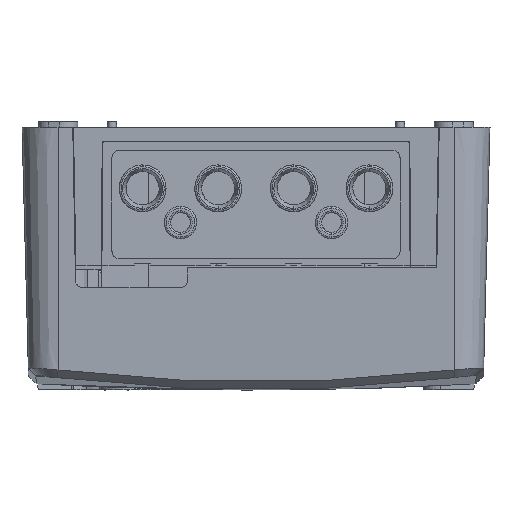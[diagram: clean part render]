
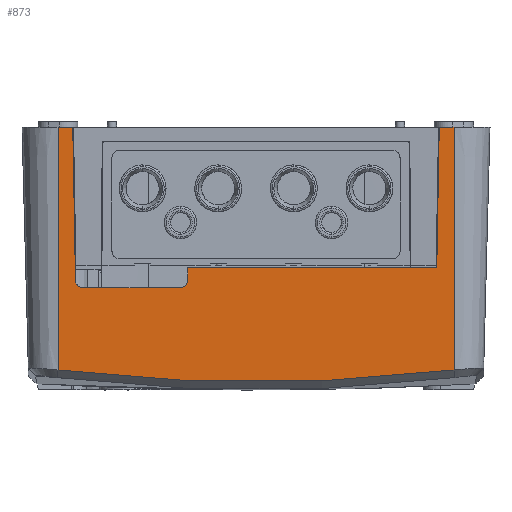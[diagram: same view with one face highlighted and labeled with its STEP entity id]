
A CAD part, front view. The second image highlights one B-rep face of the part: STEP entity #873.
In plain terms, the highlighted planar face has unit normal (0, -1, -0.026).
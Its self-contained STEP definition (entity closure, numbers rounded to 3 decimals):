
#873=ADVANCED_FACE('',(#11761),#11763,.F.);
#11761=FACE_OUTER_BOUND('',#11762,.T.);
#11762=EDGE_LOOP('',(#24695,#24696,#24697,#24698,#24699,#24700,#24701,#24702,#24703,
#24704,#24705,#24706));
#11763=PLANE('',#11764);
#11764=AXIS2_PLACEMENT_3D('',#11765,#11766,#11767);
#11765=CARTESIAN_POINT('',(43.592,-187.936,-9.508));
#11766=DIRECTION('',(0.,1.,0.026));
#11767=DIRECTION('',(0.,-0.026,1.));
#24695=ORIENTED_EDGE('',*,*,#29319,.F.);
#24696=ORIENTED_EDGE('',*,*,#29337,.F.);
#24697=ORIENTED_EDGE('',*,*,#29296,.T.);
#24698=ORIENTED_EDGE('',*,*,#29339,.F.);
#24699=ORIENTED_EDGE('',*,*,#29300,.F.);
#24700=ORIENTED_EDGE('',*,*,#29335,.F.);
#24701=ORIENTED_EDGE('',*,*,#29334,.F.);
#24702=ORIENTED_EDGE('',*,*,#29331,.F.);
#24703=ORIENTED_EDGE('',*,*,#29329,.F.);
#24704=ORIENTED_EDGE('',*,*,#29328,.F.);
#24705=ORIENTED_EDGE('',*,*,#29325,.F.);
#24706=ORIENTED_EDGE('',*,*,#29323,.F.);
#29296=EDGE_CURVE('',#33695,#33714,#33717,.T.);
#29300=EDGE_CURVE('',#33720,#33722,#33723,.T.);
#29319=EDGE_CURVE('',#33750,#33753,#33754,.T.);
#29323=EDGE_CURVE('',#33753,#33758,#33759,.T.);
#29325=EDGE_CURVE('',#33758,#33761,#33762,.T.);
#29328=EDGE_CURVE('',#33761,#33764,#33766,.T.);
#29329=EDGE_CURVE('',#33764,#33767,#33768,.T.);
#29331=EDGE_CURVE('',#33767,#33770,#33771,.T.);
#29334=EDGE_CURVE('',#33770,#33773,#33775,.T.);
#29335=EDGE_CURVE('',#33773,#33720,#33776,.T.);
#29337=EDGE_CURVE('',#33695,#33750,#33778,.T.);
#29339=EDGE_CURVE('',#33722,#33714,#33780,.T.);
#33695=VERTEX_POINT('',#57150);
#33714=VERTEX_POINT('',#57299);
#33717=B_SPLINE_CURVE_WITH_KNOTS('',3,
(#57351,#57352,#57353,#57354,#57355,#57356,#57357,#57358,#57359,#57360,#57361,#57362,
#57363,#57364,#57365,#57366,#57367,#57368,#57369),
.UNSPECIFIED.,.F.,.F.,
(4,1,1,1,1,1,1,1,1,1,1,1,1,1,1,1,4),
(0.,0.062,0.124,0.187,0.249,0.312,
0.375,0.437,0.5,0.563,0.625,
0.688,0.751,0.813,0.876,0.938,
1.),
.UNSPECIFIED.);
#33720=VERTEX_POINT('',#57388);
#33722=VERTEX_POINT('',#57392);
#33723=LINE('',#57393,#57394);
#33750=VERTEX_POINT('',#57842);
#33753=VERTEX_POINT('',#57848);
#33754=LINE('',#57849,#57850);
#33758=VERTEX_POINT('',#57863);
#33759=LINE('',#57864,#57865);
#33761=VERTEX_POINT('',#57870);
#33762=(BOUNDED_CURVE()B_SPLINE_CURVE(3,
(#57871,#57872,#57873,#57874),
.UNSPECIFIED.,.F.,.F.)B_SPLINE_CURVE_WITH_KNOTS((4,4),
(0.,1.),
.UNSPECIFIED.)CURVE()GEOMETRIC_REPRESENTATION_ITEM()RATIONAL_B_SPLINE_CURVE((1.,
0.809,0.809,1.))REPRESENTATION_ITEM(''));
#33764=VERTEX_POINT('',#57878);
#33766=LINE('',#57882,#57883);
#33767=VERTEX_POINT('',#57885);
#33768=(BOUNDED_CURVE()B_SPLINE_CURVE(3,
(#57886,#57887,#57888,#57889),
.UNSPECIFIED.,.F.,.F.)B_SPLINE_CURVE_WITH_KNOTS((4,4),
(0.,1.),
.UNSPECIFIED.)CURVE()GEOMETRIC_REPRESENTATION_ITEM()RATIONAL_B_SPLINE_CURVE((1.,
0.805,0.805,1.))REPRESENTATION_ITEM(''));
#33770=VERTEX_POINT('',#57893);
#33771=LINE('',#57894,#57895);
#33773=VERTEX_POINT('',#57900);
#33775=LINE('',#57904,#57905);
#33776=LINE('',#57907,#57908);
#33778=LINE('',#57913,#57914);
#33780=LINE('',#57919,#57920);
#57150=CARTESIAN_POINT('',(-66.408,-186.169,-76.961));
#57299=CARTESIAN_POINT('',(43.592,-186.169,-76.961));
#57351=CARTESIAN_POINT('',(-66.408,-186.169,-76.961));
#57352=CARTESIAN_POINT('',(-64.133,-186.162,-77.243));
#57353=CARTESIAN_POINT('',(-59.575,-186.148,-77.774));
#57354=CARTESIAN_POINT('',(-52.73,-186.13,-78.463));
#57355=CARTESIAN_POINT('',(-45.867,-186.115,-79.047));
#57356=CARTESIAN_POINT('',(-38.99,-186.102,-79.525));
#57357=CARTESIAN_POINT('',(-32.102,-186.092,-79.898));
#57358=CARTESIAN_POINT('',(-25.208,-186.085,-80.164));
#57359=CARTESIAN_POINT('',(-18.31,-186.081,-80.323));
#57360=CARTESIAN_POINT('',(-11.41,-186.08,-80.377));
#57361=CARTESIAN_POINT('',(-4.51,-186.081,-80.324));
#57362=CARTESIAN_POINT('',(2.389,-186.085,-80.164));
#57363=CARTESIAN_POINT('',(9.283,-186.092,-79.898));
#57364=CARTESIAN_POINT('',(16.172,-186.102,-79.526));
#57365=CARTESIAN_POINT('',(23.049,-186.115,-79.047));
#57366=CARTESIAN_POINT('',(29.913,-186.13,-78.463));
#57367=CARTESIAN_POINT('',(36.758,-186.148,-77.774));
#57368=CARTESIAN_POINT('',(41.316,-186.162,-77.243));
#57369=CARTESIAN_POINT('',(43.592,-186.169,-76.961));
#57388=CARTESIAN_POINT('',(39.492,-187.936,-9.509));
#57392=CARTESIAN_POINT('',(43.592,-187.936,-9.509));
#57393=CARTESIAN_POINT('',(39.492,-187.936,-9.509));
#57394=VECTOR('',#57395,1.);
#57395=DIRECTION('',(1.,0.,0.));
#57842=CARTESIAN_POINT('',(-66.408,-187.936,-9.509));
#57848=CARTESIAN_POINT('',(-62.308,-187.936,-9.509));
#57849=CARTESIAN_POINT('',(-66.408,-187.936,-9.509));
#57850=VECTOR('',#57851,1.);
#57851=DIRECTION('',(1.,0.,0.));
#57863=CARTESIAN_POINT('',(-61.564,-186.819,-52.144));
#57864=CARTESIAN_POINT('',(-62.308,-187.936,-9.509));
#57865=VECTOR('',#57866,1.);
#57866=DIRECTION('',(0.017,0.026,-1.));
#57870=CARTESIAN_POINT('',(-59.564,-186.768,-54.109));
#57871=CARTESIAN_POINT('',(-61.564,-186.819,-52.144));
#57872=CARTESIAN_POINT('',(-61.544,-186.789,-53.3));
#57873=CARTESIAN_POINT('',(-60.72,-186.768,-54.109));
#57874=CARTESIAN_POINT('',(-59.564,-186.768,-54.109));
#57878=CARTESIAN_POINT('',(-32.408,-186.768,-54.109));
#57882=CARTESIAN_POINT('',(-59.564,-186.768,-54.109));
#57883=VECTOR('',#57884,1.);
#57884=DIRECTION('',(1.,0.,0.));
#57885=CARTESIAN_POINT('',(-30.408,-186.82,-52.109));
#57886=CARTESIAN_POINT('',(-32.408,-186.768,-54.109));
#57887=CARTESIAN_POINT('',(-31.236,-186.768,-54.109));
#57888=CARTESIAN_POINT('',(-30.408,-186.789,-53.281));
#57889=CARTESIAN_POINT('',(-30.408,-186.82,-52.109));
#57893=CARTESIAN_POINT('',(-30.408,-186.914,-48.513));
#57894=CARTESIAN_POINT('',(-30.408,-186.82,-52.109));
#57895=VECTOR('',#57896,1.);
#57896=DIRECTION('',(0.,-0.026,1.));
#57900=CARTESIAN_POINT('',(38.811,-186.914,-48.513));
#57904=CARTESIAN_POINT('',(-30.408,-186.914,-48.513));
#57905=VECTOR('',#57906,1.);
#57906=DIRECTION('',(1.,0.,0.));
#57907=CARTESIAN_POINT('',(38.811,-186.914,-48.513));
#57908=VECTOR('',#57909,1.);
#57909=DIRECTION('',(0.017,-0.026,1.));
#57913=CARTESIAN_POINT('',(-66.408,-186.169,-76.961));
#57914=VECTOR('',#57915,1.);
#57915=DIRECTION('',(0.,-0.026,1.));
#57919=CARTESIAN_POINT('',(43.592,-187.936,-9.509));
#57920=VECTOR('',#57921,1.);
#57921=DIRECTION('',(0.,0.026,-1.));
